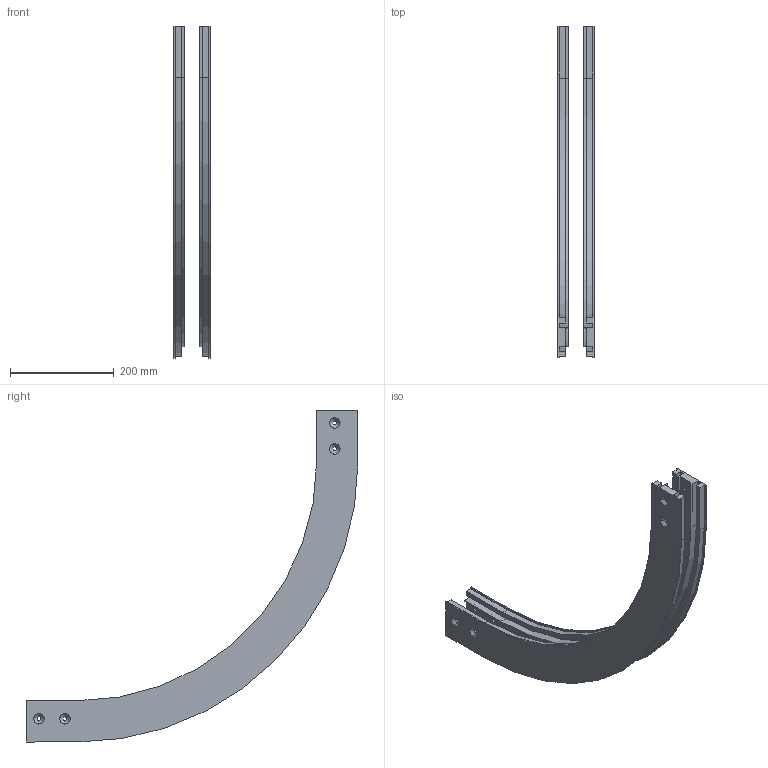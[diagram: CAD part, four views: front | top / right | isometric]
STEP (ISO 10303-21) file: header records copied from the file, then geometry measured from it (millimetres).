
FILE_DESCRIPTION (( 'STEP AP203' ), '1' );
FILE_NAME ('R1CV500-90.STEP', '2008-11-20T10:22:34', ( 'faber' ), ( '' ), 'SwSTEP 2.0', 'SolidWorks 2008', '' );
FILE_SCHEMA (( 'CONFIG_CONTROL_DESIGN' ));
Length unit declared in the file: millimetre
Products named in the file (1): R1CV500-90
Bounding box: 70 x 639.8 x 639.8 mm (x, y, z)
Volume: 1786065.8 mm3; surface area: 513538.8 mm2
Topology: 2 solids, 2 shells, 116 faces, 328 edges, 216 vertices
Faces by surface type: plane 64, cylinder 36, cone 16
Entity records: 3871 total; most frequent: CARTESIAN_POINT 661, DIRECTION 658, ORIENTED_EDGE 656, EDGE_CURVE 328, VECTOR 232, LINE 232, VERTEX_POINT 216, AXIS2_PLACEMENT_3D 213
